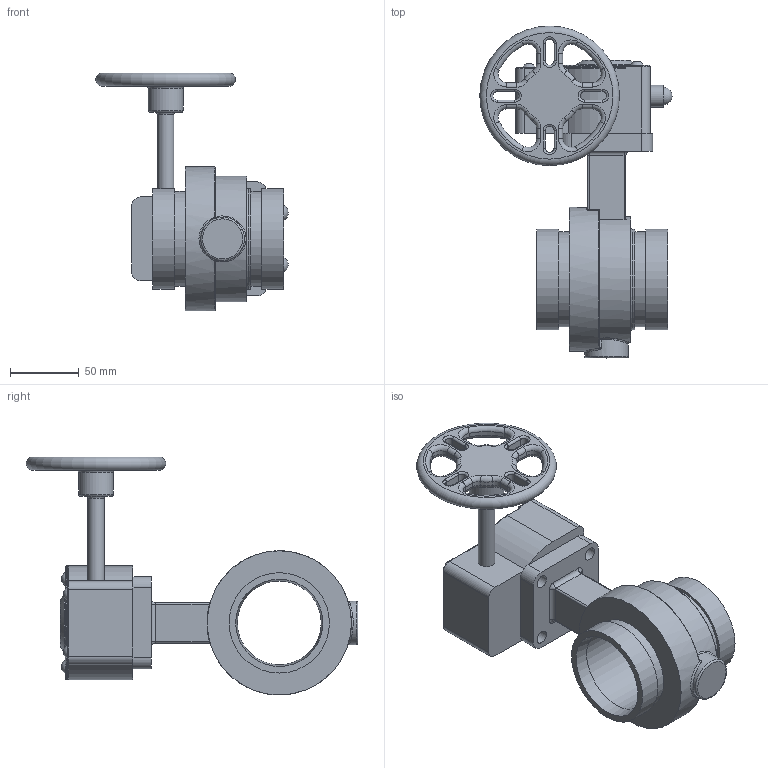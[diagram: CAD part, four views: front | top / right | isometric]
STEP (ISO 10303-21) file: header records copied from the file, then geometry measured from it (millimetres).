
FILE_DESCRIPTION(/* description */ ('Vic Series 461 Vic-300 MasterSeal SS Butterfly Valve w/Gear Op','CAx-IF Rec.Pracs.---Representation and Presentation of Product Manufacturing Information (PMI)---4.0---2014-10-13'),/* implementation_level */ '2;1');
FILE_NAME(/* name */ 'C:\Users\kkamble\AppData\Roaming\Autodesk\ApplicationPlugins\Back Up\Victaulic_SS-OGS_Valve Butterfly Vic-300 Masterseal GO_Series 461 (OGS)\Victaulic_SS-OGS_Valve Butterfly Vic-300 Masterseal GO_2.5 (65).stp',/* time_stamp */ '2020-09-02T14:50:51+05:00',/* author */ ('jbrannon'),/* organization */ ('Victaulic'),/* preprocessor_version */ 'ST-DEVELOPER v17.2',/* originating_system */ 'Autodesk Inventor 2019',/* authorisation */ '');
FILE_SCHEMA (('AP242_MANAGED_MODEL_BASED_3D_ENGINEERING_MIM_LF { 1 0 10303 442 1 1 4 }'));
Length unit declared in the file: inch
Products named in the file (3): 461-02.5; 461-02.5_1; 461-02.5_2
Assembly tree (2 placements, depth 2):
  461-02.5
    461-02.5_1
    461-02.5_2
Bounding box: 139.95 x 241.3 x 173.1 mm (x, y, z)
Volume: 766983.4 mm3; surface area: 129529 mm2
Topology: 2 solids, 2 shells, 361 faces, 854 edges, 520 vertices
Faces by surface type: cylinder 141, plane 96, torus 93, bspline 16, sphere 12, cone 3
Full cylindrical faces by diameter (mm): 7.938 x4, 8.128 x1, 9.652 x5, 11.938 x1, 15.875 x2, 25.4 x1, 31.75 x1, 44.45 x1, 54.102 x1, 60.96 x1, 69.088 x2, 73.025 x3, 91.44 x1, 104.902 x1
Entity records: 11598 total; most frequent: CARTESIAN_POINT 2449, DIRECTION 2015, ORIENTED_EDGE 1696, AXIS2_PLACEMENT_3D 852, EDGE_CURVE 848, VERTEX_POINT 520, CIRCLE 498, EDGE_LOOP 416
